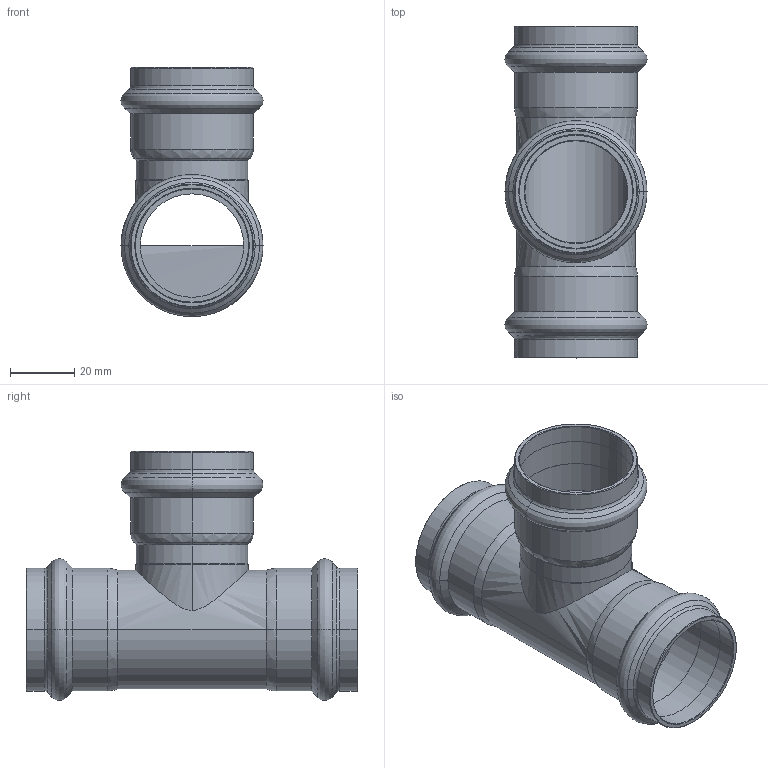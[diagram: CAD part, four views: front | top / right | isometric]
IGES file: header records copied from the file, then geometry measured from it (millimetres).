
Start section: Elysium IGES Interface
Global section: file name: C:\Users\Wallenburg\Desktop\3d modellen sudo\S-Pr VP\SP6130V\6130VW35.igs; native system: CoCreate Modeling 17.00A  17-Jun-2010; preprocessor: CoCreate IGES_3D V2.2; author: Unknown; organization: Unknown; date: 20130117.130159; units: millimetre
Bounding box: 44.3 x 103.51 x 77.7 mm (x, y, z)
Volume: 29765.4 mm3; surface area: 33740.4 mm2
Topology: 1 solids, 1 shells, 128 faces, 272 edges, 148 vertices
Faces by surface type: bspline 128
